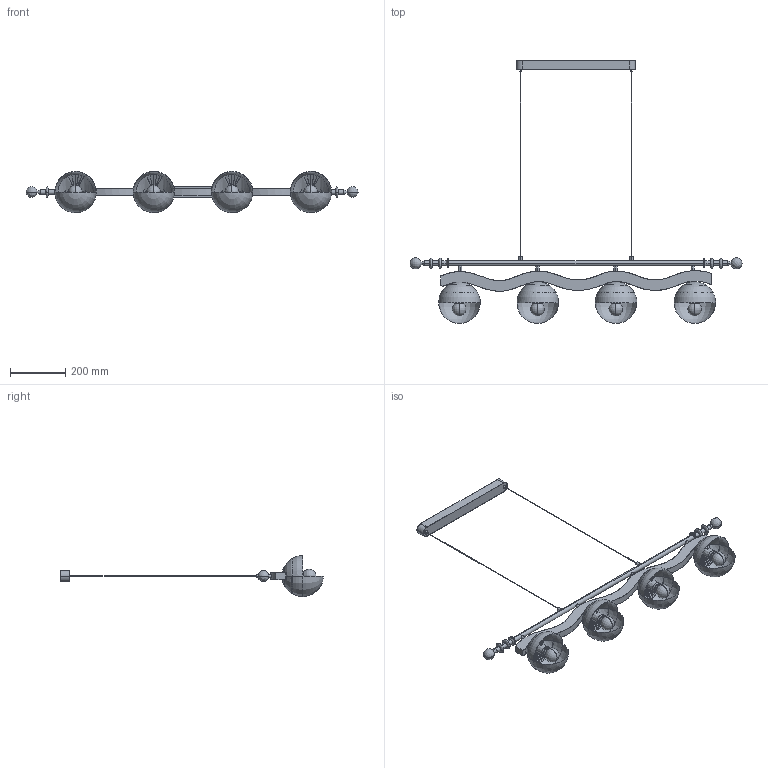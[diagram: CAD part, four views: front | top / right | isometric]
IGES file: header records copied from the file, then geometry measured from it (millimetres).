
Start section: SolidWorks IGES file using analytic representation for surfaces
Global section: file name: F:\燠隴矨\3D\2025-12\Curvira Chandelier-4heads.IGS,15; native system: HSolidWorks 2022; preprocessor: SolidWorks 2022; author: MyPC; date: 251216.102902; units: millimetre
Bounding box: 1199.98 x 950.54 x 149.13 mm (x, y, z)
Surface area: 884871 mm2 (no closed solid volume)
Topology: 0 solids, 0 shells, 476 faces, 5664 edges, 5630 vertices
Faces by surface type: revolution 284, bspline 192
